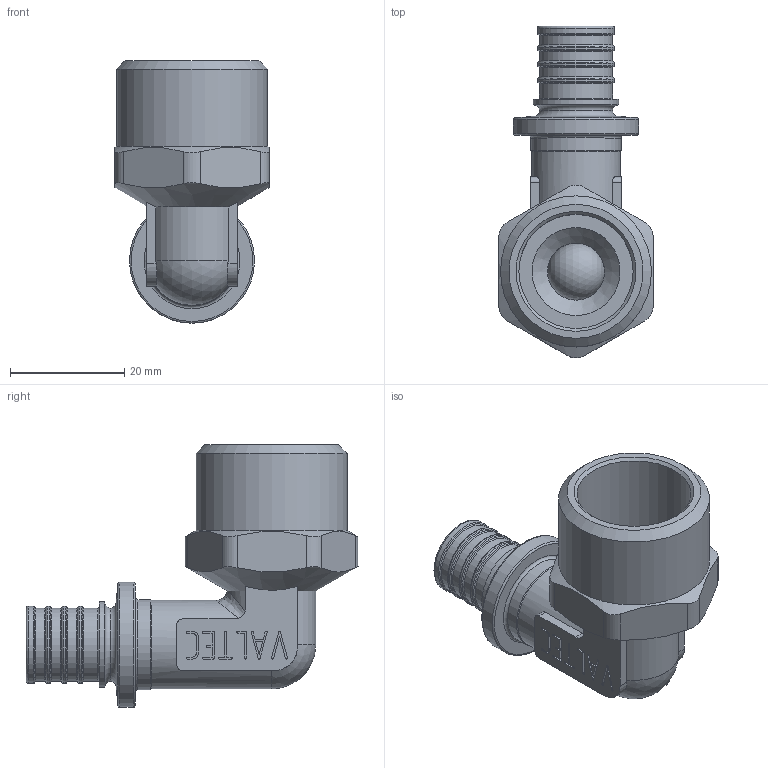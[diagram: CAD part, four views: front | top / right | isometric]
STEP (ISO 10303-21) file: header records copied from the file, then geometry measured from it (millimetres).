
FILE_DESCRIPTION(('STEP AP203'), '1');
FILE_NAME('ﾂﾐ.752212.005 - VTm.453.G.001605 ﾔ頸. 90 胙. 浯葢', '2024-01-24T06:25:39', ('IT'), ('VESTA'), 'C3D Converter', 'C3D Toolkit', '');
FILE_SCHEMA(('CONFIG_CONTROL_DESIGN'));
Length unit declared in the file: millimetre
Products named in the file (1): ВР.752212.005
Bounding box: 27 x 58.12 x 45.95 mm (x, y, z)
Volume: 13623.3 mm3; surface area: 9149.5 mm2
Topology: 1 solids, 1 shells, 328 faces, 886 edges, 576 vertices
Faces by surface type: extrusion 142, plane 118, cylinder 33, torus 21, cone 8, bspline 4, sphere 2
Full cylindrical faces by diameter (mm): 10 x2, 12.8 x4, 13.5 x4, 15 x1, 15.5 x1, 15.8 x1, 20 x1, 21.9 x1, 26.441 x1
Entity records: 11798 total; most frequent: CARTESIAN_POINT 4332, ORIENTED_EDGE 1682, DIRECTION 1084, EDGE_CURVE 841, VERTEX_POINT 576, VECTOR 572, B_SPLINE_CURVE_WITH_KNOTS 479, LINE 430
